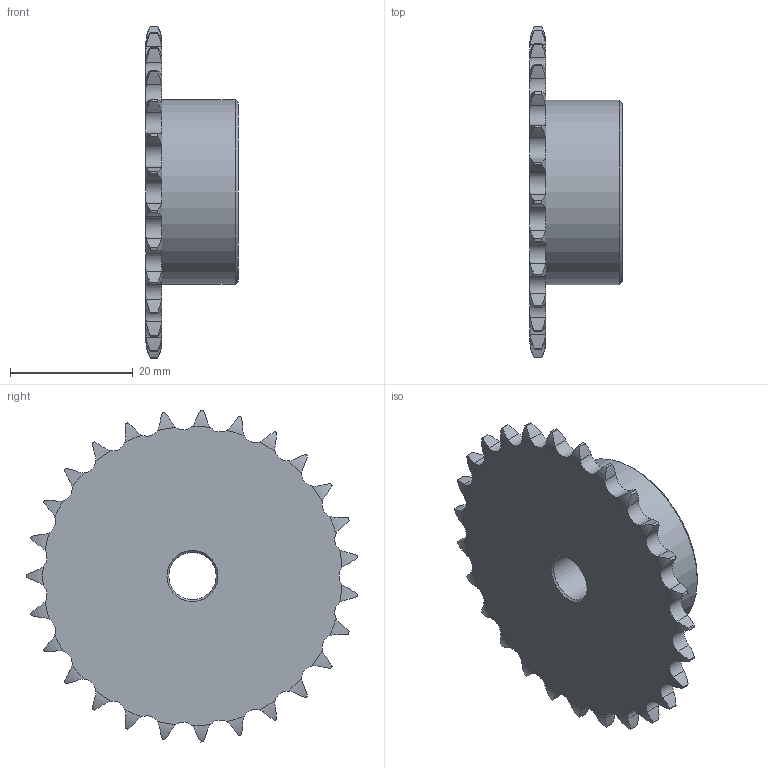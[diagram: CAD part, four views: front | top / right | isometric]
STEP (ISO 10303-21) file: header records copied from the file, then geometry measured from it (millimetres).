
FILE_DESCRIPTION(/* description */ (''),/* implementation_level */ '2;1');
FILE_NAME(/* name */ 'C:\Users\stagistaCAD\Desktop\10106027.stp',/* time_stamp */ '2018-06-21T14:43:50+02:00',/* author */ ('stagistacad'),/* organization */ (''),/* preprocessor_version */ 'ST-DEVELOPER v15.6',/* originating_system */ 'Autodesk Inventor 2015',/* authorisation */ '');
FILE_SCHEMA (('AUTOMOTIVE_DESIGN { 1 0 10303 214 3 1 1 }'));
Length unit declared in the file: millimetre
Products named in the file (1): 10106027
Bounding box: 15 x 53.92 x 54.01 mm (x, y, z)
Volume: 13101.9 mm3; surface area: 5885.8 mm2
Topology: 1 solids, 1 shells, 170 faces, 498 edges, 331 vertices
Faces by surface type: cylinder 110, torus 54, plane 3, cone 3
Full cylindrical faces by diameter (mm): 7.7 x1, 30 x1
Entity records: 6242 total; most frequent: CARTESIAN_POINT 1979, ORIENTED_EDGE 986, DIRECTION 788, EDGE_CURVE 493, AXIS2_PLACEMENT_3D 340, VERTEX_POINT 331, B_SPLINE_CURVE_WITH_KNOTS 216, EDGE_LOOP 178
